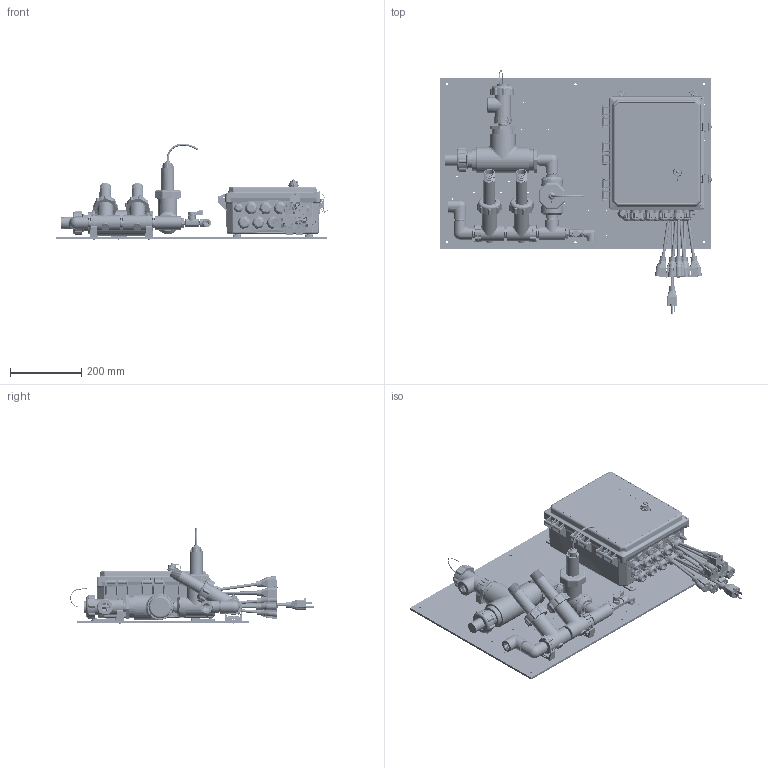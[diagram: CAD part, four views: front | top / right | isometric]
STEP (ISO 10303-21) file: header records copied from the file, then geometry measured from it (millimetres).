
FILE_DESCRIPTION (( 'STEP AP203' ), '1' );
FILE_NAME ('W900-CT-PCFIPN.STEP', '2019-05-02T18:28:51', ( '' ), ( '' ), 'SwSTEP 2.0', 'SolidWorks 2019', '' );
FILE_SCHEMA (( 'CONFIG_CONTROL_DESIGN' ));
Length unit declared in the file: inch
Products named in the file (57): SHELL-103893_91772A829; SHELL-191652; ISA0006; SHELL-190996; 102961ws; SHELL-102381_4880K345; SHELL-ST-500; SHELL-103134; 102907; SHELL-191638; IMS0005; SHELL-102061; SHELL-104159; SHELL-102817-01; 102903_102903; SHELL-102882; SHELL-103859_Cord1; SHELL-191020-XX; SHELL-102881; IMS0038; SHELL-102938; SHELL-191157; 102906; SHELL-102919; W900 Shell; SHELL-102586; IMS0040; SHELL-102423; W900-CT-PCFIPN Manifold; 192606-PIN; 103860_Cord1; SHELL-102594; SHELL-102961_30075T212; IMS0013; IMS0039; SHELL-102884; W900-CT-PCFIPN; SHELL-103283-FT; SHELL-WEL-XXX-NN; 103861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
Assembly tree (108 placements, depth 5):
  W900-CT-PCFIPN
    SHELL-102938
    W900 Shell
      W900 Shell
      SHELL-103283-FT  x4
      IMS0035_91500A537  x4
      SHELL-103893_91772A829  x4
      ISA0006
        102907
        102903_102903
        102906
        103860_Cord1  x3
        103861
      ISA0006
        102907
        102903_102903
        102906
        103860_Cord1  x3
        103861
      ISA0006
        102907
        102903_102903
        102906
        103860_Cord1  x3
        103861
      SHELL-103859_Cord1
    102961ws
      SHELL-102961_30075T212
      SHELL-103886_98273A320
    102961ws
      SHELL-102961_30075T212
      SHELL-103886_98273A320
    102961ws
      SHELL-102961_30075T212
      SHELL-103886_98273A320
    W900-CT-PCFIPN Manifold
      SHELL-102881
      SHELL-102423  x3
      SHELL-102884  x2
      SHELL-103425_4882K14  x8
      SHELL-191157
        SHELL-103133
        SHELL-103134  x2
        SHELL-102817-01
      SHELL-191652
        192606-PIN
        SHELL-WEL-XXX-NN
        SHELL-103778
      SHELL-191638
      SHELL-191020-XX
        SHELL-102882
        SHELL-102919
        SHELL-102594
        SHELL-190996
          SHELL-102880
          SHELL-102986  x2
        IMS0005
      SHELL-102586  x4
      SHELL-102594  x3
      SHELL-103515
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Bounding box: 764.69 x 685.7 x 271.95 mm (x, y, z)
Volume: 6602370.5 mm3; surface area: 2649568.4 mm2
Topology: 140 solids, 140 shells, 19603 faces, 51488 edges, 32302 vertices
Faces by surface type: plane 8013, cylinder 5940, bspline 3392, cone 1415, torus 666, sphere 177
Entity records: 669916 total; most frequent: CARTESIAN_POINT 344528, ORIENTED_EDGE 75522, DIRECTION 53944, EDGE_CURVE 37761, VERTEX_POINT 23783, AXIS2_PLACEMENT_3D 18823, VECTOR 16298, LINE 16298
